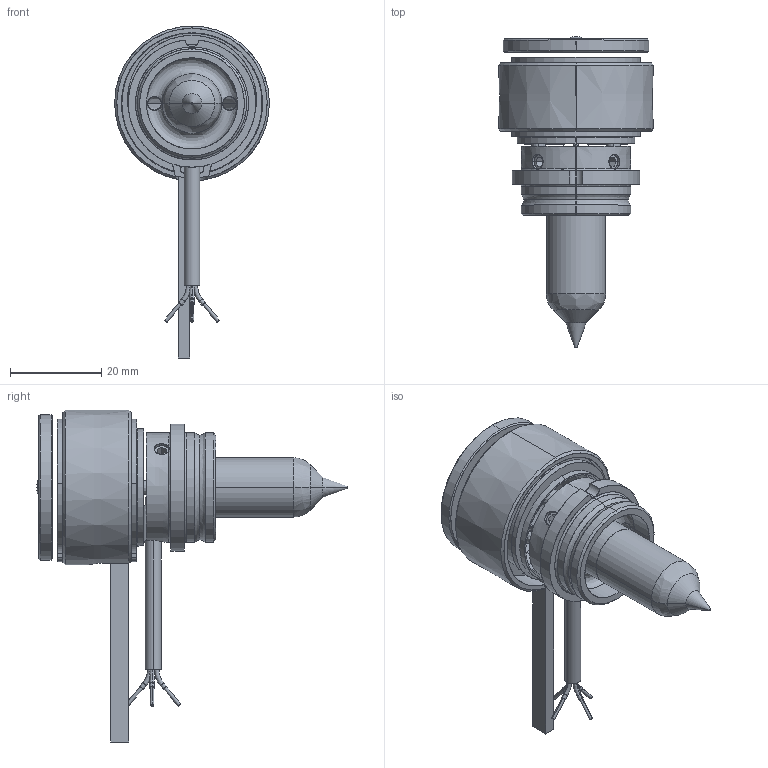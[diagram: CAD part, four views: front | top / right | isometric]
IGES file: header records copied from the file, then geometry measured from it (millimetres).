
Start section: SolidWorks IGES file using analytic representation for surfaces
Global section: file name: C:\Documents and Settings\ws-20\Desktop\TEM\UGGS2510-S-1 [Øf-0.47].IGS; native system: SolidWorks 2012; preprocessor: SolidWorks 2012; author: ws-20; date: 120516.092738; units: millimetre
Bounding box: 34 x 68.3 x 72.9 mm (x, y, z)
Surface area: 15162.3 mm2 (no closed solid volume)
Topology: 0 solids, 0 shells, 205 faces, 2959 edges, 2953 vertices
Faces by surface type: revolution 127, bspline 78
